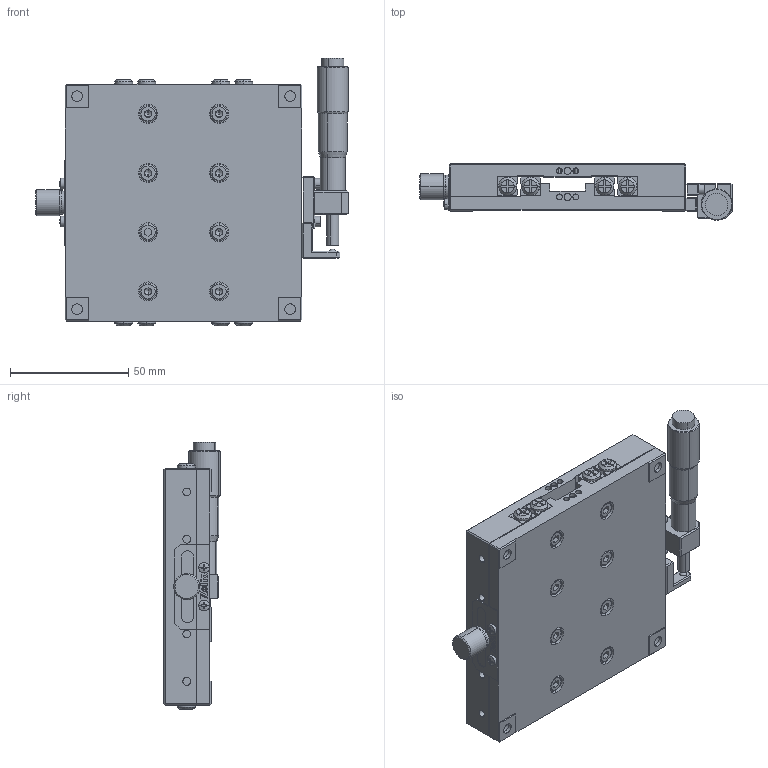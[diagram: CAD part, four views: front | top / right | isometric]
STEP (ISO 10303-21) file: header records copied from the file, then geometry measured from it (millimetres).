
FILE_DESCRIPTION (( 'STEP AP203' ), '1' );
FILE_NAME ('AK25A-10020RZ.step', '2019-05-08T06:42:42', ( '' ), ( '' ), 'SwSTEP 2.0', 'SolidWorks 2017', '' );
FILE_SCHEMA (( 'CONFIG_CONTROL_DESIGN' ));
Length unit declared in the file: millimetre
Products named in the file (1): AK25A-10020RZ
Bounding box: 132.1 x 23.8 x 113 mm (x, y, z)
Surface area: 70933.3 mm2 (no closed solid volume)
Topology: 0 solids, 42 shells, 853 faces, 2798 edges, 1874 vertices
Faces by surface type: plane 546, cylinder 195, cone 62, torus 44, sphere 6
Entity records: 30817 total; most frequent: CARTESIAN_POINT 6336, DIRECTION 5159, ORIENTED_EDGE 4578, EDGE_CURVE 2755, VECTOR 1883, LINE 1883, VERTEX_POINT 1871, AXIS2_PLACEMENT_3D 1638
